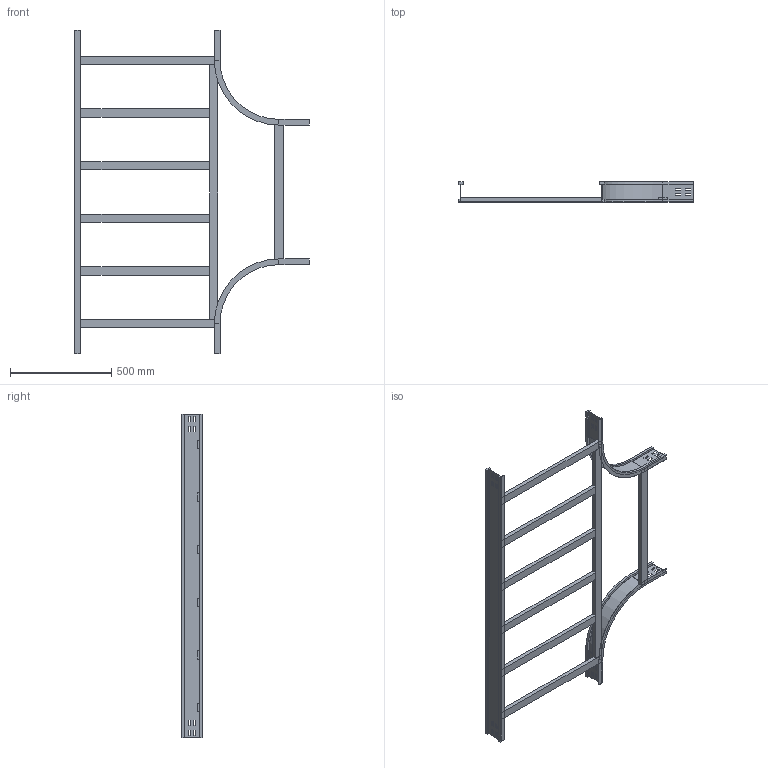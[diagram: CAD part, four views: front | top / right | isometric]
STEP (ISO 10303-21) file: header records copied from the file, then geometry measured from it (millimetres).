
FILE_DESCRIPTION (( 'STEP AP214' ), '1' );
FILE_NAME ('15S3D700.step', '2025-02-21T16:12:38', ( '' ), ( '' ), 'SwSTEP 2.0', 'SolidWorks 2023', '' );
FILE_SCHEMA (( 'AUTOMOTIVE_DESIGN' ));
Length unit declared in the file: millimetre
Products named in the file (6): TRAVERSINO_LONG._R300+700; TRAVERSINO_700; LONGH.INTERNO 90°_H100_R300; TRAVERSINO_INTERMEDIO_R300+700; 15S3D700; LONGH.RETT_H100_R300+700
Assembly tree (11 placements, depth 2):
  15S3D700
    LONGH.INTERNO 90°_H100_R300  x2
    LONGH.RETT_H100_R300+700
    TRAVERSINO_700  x3
    TRAVERSINO_LONG._R300+700
    TRAVERSINO_INTERMEDIO_R300+700  x4
Bounding box: 1159 x 100 x 1600 mm (x, y, z)
Volume: 6500452.1 mm3; surface area: 1665719.6 mm2
Topology: 11 solids, 11 shells, 234 faces, 588 edges, 376 vertices
Faces by surface type: plane 222, cylinder 12
Entity records: 4291 total; most frequent: CARTESIAN_POINT 720, ORIENTED_EDGE 696, DIRECTION 656, EDGE_CURVE 348, VECTOR 336, LINE 336, VERTEX_POINT 224, EDGE_LOOP 166
